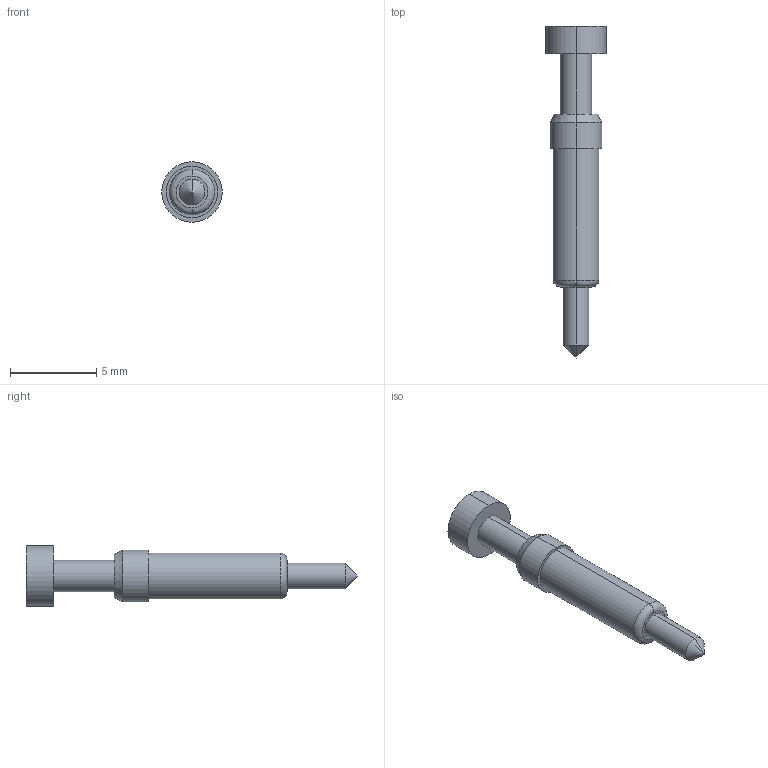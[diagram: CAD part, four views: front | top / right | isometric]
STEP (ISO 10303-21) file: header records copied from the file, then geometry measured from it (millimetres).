
FILE_DESCRIPTION (( 'STEP AP214' ), '1' );
FILE_NAME ('PC8FST-3.5.STEP', '2021-07-13T12:19:14', ( '' ), ( '' ), 'SwSTEP 2.0', 'SolidWorks 2021', '' );
FILE_SCHEMA (( 'AUTOMOTIVE_DESIGN' ));
Length unit declared in the file: millimetre
Products named in the file (1): PC8FST-3.5
Bounding box: 3.5 x 19.2 x 3.5 mm (x, y, z)
Volume: 88.1 mm3; surface area: 164.2 mm2
Topology: 1 solids, 1 shells, 21 faces, 42 edges, 25 vertices
Faces by surface type: cylinder 10, plane 5, cone 4, bspline 2
Entity records: 594 total; most frequent: CARTESIAN_POINT 123, DIRECTION 102, ORIENTED_EDGE 80, AXIS2_PLACEMENT_3D 44, EDGE_CURVE 40, EDGE_LOOP 25, VERTEX_POINT 25, CIRCLE 24
